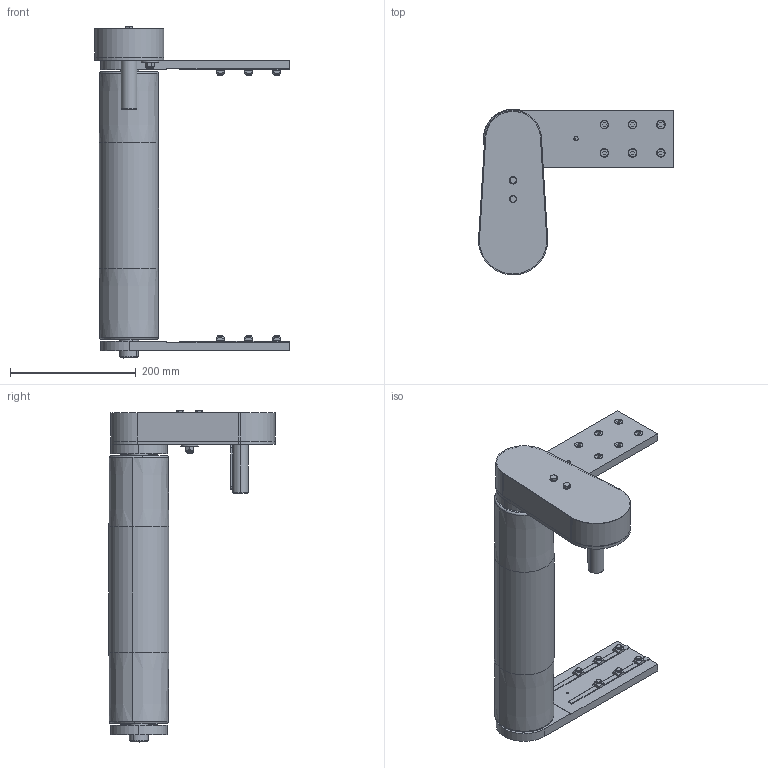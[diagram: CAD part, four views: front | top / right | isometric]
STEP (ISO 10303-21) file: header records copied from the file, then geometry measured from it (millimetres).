
FILE_DESCRIPTION (( 'STEP AP203' ), '1' );
FILE_NAME ('084.095.KTB.49.400.step', '2013-02-28T12:02:41', ( '' ), ( '' ), 'SwSTEP 2.0', 'SolidWorks 2011', '' );
FILE_SCHEMA (( 'CONFIG_CONTROL_DESIGN' ));
Length unit declared in the file: millimetre
Products named in the file (28): 084.095.KTB.49.400; Hex Screw GradeC_ALUSIC_ISO 4018 - M8 x 20-NS; Hex Screw GradeC_ALUSIC_ISO 4018 - M6 x 50-NS; ANELLI ELASTICI PER ESTERNI UNI 7435-75_Circlip DIN 471 - 30 x 1.5; CHIAVETTE_A 8x7x25 UNI 6604-69; CHIAVETTE_A 8x7x70 UNI 6604-69; Specchiatura084.302.000 DADI ALUSIC 13x13_084.302.004; 084.301.000 VITI ALUSIC_084.301.003; 084.302.000 DADI ALUSIC 13x13_084.302.004; 084.821.003; 084.810.006; Circlip for Shafts normal_din_Circlip DIN 471 - 8 x 0.8; Plain Washer XLarge Grade C_ALUSIC_Washer ISO 7094 - 8; Torque nut 01_ALUSIC_ISO 7040-M8-S; CUSCINETTI A SFERE_608-2RS; 084.810.008; 084.816.107_084.816.107<A macchina>; 084.813.005; 084.809.002; 084.821.002; 084.809.003; 084.813.002; 084.812.003; 084.802.019_084.802.019; 084.802.034_084.802.034; 084.808.002_084.808.002; 084.810.003; 084.808.003_084.808.003
Assembly tree (59 placements, depth 3):
  084.095.KTB.49.400
    084.301.000 VITI ALUSIC_084.301.003  x12
    ANELLI ELASTICI PER ESTERNI UNI 7435-75_Circlip DIN 471 - 30 x 1.5  x2
    084.821.002  x2
    084.810.003  x2
    Specchiatura084.302.000 DADI ALUSIC 13x13_084.302.004  x6
    Hex Screw GradeC_ALUSIC_ISO 4018 - M8 x 20-NS  x4
    CHIAVETTE_A 8x7x25 UNI 6604-69  x3
    084.816.107_084.816.107<A macchina>
    Hex Screw GradeC_ALUSIC_ISO 4018 - M6 x 50-NS  x2
    CHIAVETTE_A 8x7x70 UNI 6604-69
    084.302.000 DADI ALUSIC 13x13_084.302.004  x6
    084.813.005
    084.821.003
    084.802.019_084.802.019
    084.809.002
    084.812.003
    084.813.002
    084.808.003_084.808.003
    084.802.034_084.802.034
    084.810.006
      084.810.008
      Torque nut 01_ALUSIC_ISO 7040-M8-S
      CUSCINETTI A SFERE_608-2RS  x3
      Plain Washer XLarge Grade C_ALUSIC_Washer ISO 7094 - 8
      Circlip for Shafts normal_din_Circlip DIN 471 - 8 x 0.8
    084.809.003
    084.808.002_084.808.002
Bounding box: 310 x 263.99 x 527.88 mm (x, y, z)
Volume: 2052905.5 mm3; surface area: 895484.5 mm2
Topology: 63 solids, 64 shells, 2827 faces, 7309 edges, 4678 vertices
Faces by surface type: cylinder 1022, plane 857, cone 817, torus 122, sphere 9
Entity records: 54510 total; most frequent: CARTESIAN_POINT 9764, DIRECTION 9204, ORIENTED_EDGE 8304, EDGE_CURVE 4152, AXIS2_PLACEMENT_3D 3521, VERTEX_POINT 2673, LINE 2162, VECTOR 2162
